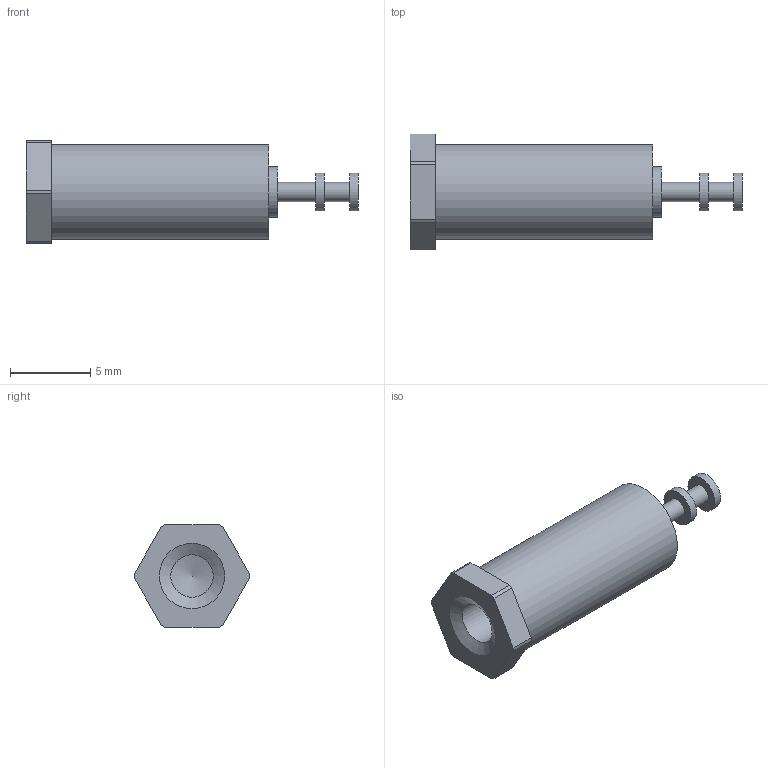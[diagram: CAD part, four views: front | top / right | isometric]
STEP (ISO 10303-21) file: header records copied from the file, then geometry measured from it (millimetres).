
FILE_DESCRIPTION(/* description */ (''),/* implementation_level */ '2;1');
FILE_NAME(/* name */ '\\Snap1\dwgs\Customer 3D Models\572\572-4833-01 Customer model.stp',/* time_stamp */ '2017-01-10T16:39:11+00:00',/* author */ ('paulk'),/* organization */ (''),/* preprocessor_version */ 'ST-DEVELOPER v15.2',/* originating_system */ 'Autodesk Inventor 2014',/* authorisation */ '');
FILE_SCHEMA (('CONFIG_CONTROL_DESIGN'));
Length unit declared in the file: millimetre
Products named in the file (1): 572-4833-01 Customer model
Bounding box: 20.65 x 7.2 x 6.35 mm (x, y, z)
Volume: 386.1 mm3; surface area: 467.2 mm2
Topology: 1 solids, 1 shells, 29 faces, 61 edges, 40 vertices
Faces by surface type: plane 14, cylinder 13, cone 2
Full cylindrical faces by diameter (mm): 1.194 x2, 2.362 x2, 2.642 x1, 3.175 x1, 5.893 x1
Entity records: 810 total; most frequent: DIRECTION 138, CARTESIAN_POINT 120, ORIENTED_EDGE 102, AXIS2_PLACEMENT_3D 57, EDGE_CURVE 51, EDGE_LOOP 44, VERTEX_POINT 39, STYLED_ITEM 30
